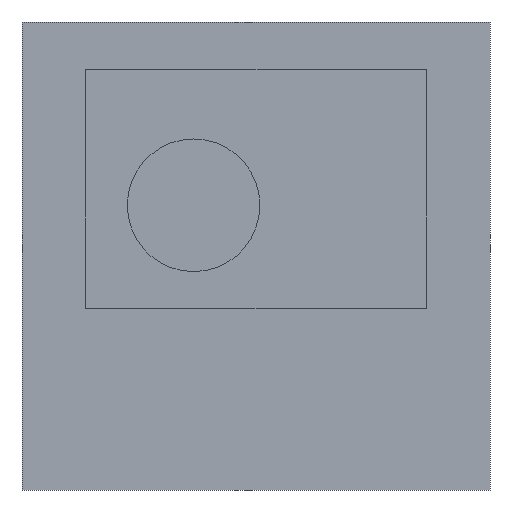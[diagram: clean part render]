
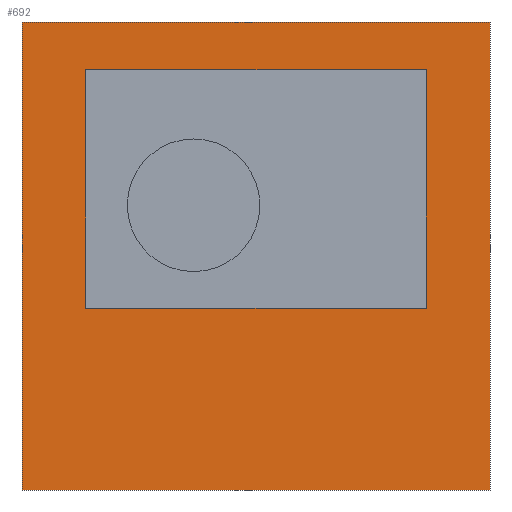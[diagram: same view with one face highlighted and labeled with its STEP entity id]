
A CAD part, front view. The second image highlights one B-rep face of the part: STEP entity #692.
In plain terms, the highlighted planar face has unit normal (0, -1, 0).
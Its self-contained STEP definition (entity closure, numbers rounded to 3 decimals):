
#43=DIRECTION('',(1.,0.,0.));
#44=VECTOR('',#43,3.);
#45=CARTESIAN_POINT('',(-1.5,-0.845,-1.75));
#46=LINE('',#45,#44);
#47=DIRECTION('',(0.,0.,-1.));
#48=VECTOR('',#47,3.);
#49=CARTESIAN_POINT('',(-1.5,-0.845,1.25));
#50=LINE('',#49,#48);
#51=DIRECTION('',(-1.,0.,0.));
#52=VECTOR('',#51,3.);
#53=CARTESIAN_POINT('',(1.5,-0.845,1.25));
#54=LINE('',#53,#52);
#55=DIRECTION('',(0.,0.,1.));
#56=VECTOR('',#55,3.);
#57=CARTESIAN_POINT('',(1.5,-0.845,-1.75));
#58=LINE('',#57,#56);
#59=DIRECTION('',(0.,0.,-1.));
#60=VECTOR('',#59,1.53);
#61=CARTESIAN_POINT('',(-1.09,-0.845,0.945));
#62=LINE('',#61,#60);
#63=DIRECTION('',(1.,0.,0.));
#64=VECTOR('',#63,2.18);
#65=CARTESIAN_POINT('',(-1.09,-0.845,-0.585));
#66=LINE('',#65,#64);
#67=DIRECTION('',(0.,0.,1.));
#68=VECTOR('',#67,1.53);
#69=CARTESIAN_POINT('',(1.09,-0.845,-0.585));
#70=LINE('',#69,#68);
#71=DIRECTION('',(-1.,0.,0.));
#72=VECTOR('',#71,2.18);
#73=CARTESIAN_POINT('',(1.09,-0.845,0.945));
#74=LINE('',#73,#72);
#452=CARTESIAN_POINT('',(-1.5,-0.845,-1.75));
#453=CARTESIAN_POINT('',(1.5,-0.845,-1.75));
#454=VERTEX_POINT('',#452);
#455=VERTEX_POINT('',#453);
#456=CARTESIAN_POINT('',(1.5,-0.845,1.25));
#457=VERTEX_POINT('',#456);
#458=CARTESIAN_POINT('',(-1.5,-0.845,1.25));
#459=VERTEX_POINT('',#458);
#516=CARTESIAN_POINT('',(-1.09,-0.845,0.945));
#517=CARTESIAN_POINT('',(-1.09,-0.845,-0.585));
#518=VERTEX_POINT('',#516);
#519=VERTEX_POINT('',#517);
#520=CARTESIAN_POINT('',(1.09,-0.845,-0.585));
#521=VERTEX_POINT('',#520);
#522=CARTESIAN_POINT('',(1.09,-0.845,0.945));
#523=VERTEX_POINT('',#522);
#671=CARTESIAN_POINT('',(0.,-0.845,0.));
#672=DIRECTION('',(0.,-1.,0.));
#673=DIRECTION('',(0.,0.,1.));
#674=AXIS2_PLACEMENT_3D('',#671,#672,#673);
#675=PLANE('',#674);
#676=ORIENTED_EDGE('',*,*,#623,.F.);
#677=ORIENTED_EDGE('',*,*,#638,.F.);
#678=ORIENTED_EDGE('',*,*,#652,.F.);
#679=ORIENTED_EDGE('',*,*,#665,.F.);
#680=EDGE_LOOP('',(#676,#677,#678,#679));
#681=FACE_OUTER_BOUND('',#680,.F.);
#683=ORIENTED_EDGE('',*,*,#682,.T.);
#685=ORIENTED_EDGE('',*,*,#684,.T.);
#687=ORIENTED_EDGE('',*,*,#686,.T.);
#689=ORIENTED_EDGE('',*,*,#688,.T.);
#690=EDGE_LOOP('',(#683,#685,#687,#689));
#691=FACE_BOUND('',#690,.F.);
#623=EDGE_CURVE('',#454,#455,#46,.T.);
#638=EDGE_CURVE('',#459,#454,#50,.T.);
#652=EDGE_CURVE('',#457,#459,#54,.T.);
#665=EDGE_CURVE('',#455,#457,#58,.T.);
#682=EDGE_CURVE('',#518,#519,#62,.T.);
#684=EDGE_CURVE('',#519,#521,#66,.T.);
#686=EDGE_CURVE('',#521,#523,#70,.T.);
#688=EDGE_CURVE('',#523,#518,#74,.T.);
#692=ADVANCED_FACE('',(#681,#691),#675,.T.);
